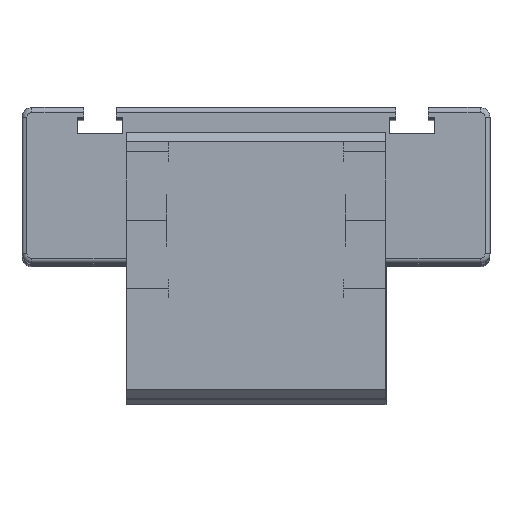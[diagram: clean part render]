
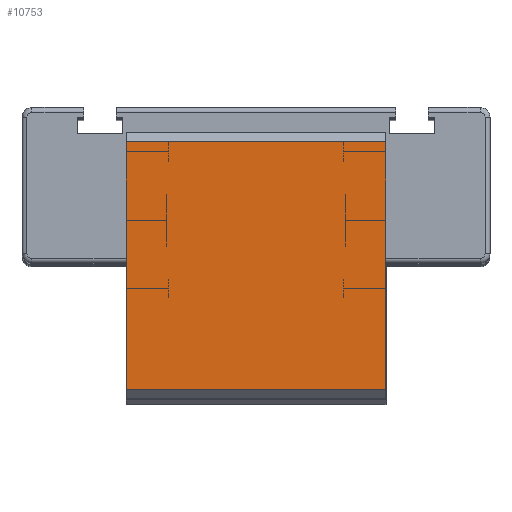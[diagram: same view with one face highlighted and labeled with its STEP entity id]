
A CAD part, top view. The second image highlights one B-rep face of the part: STEP entity #10753.
In plain terms, the highlighted planar face has unit normal (0, 0, 1).
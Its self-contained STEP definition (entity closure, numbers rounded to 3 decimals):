
#694 = CARTESIAN_POINT ( 'NONE',  ( 80., 0., 29.5 ) ) ;
#975 = ORIENTED_EDGE ( 'NONE', *, *, #7516, .F. ) ;
#2027 = ORIENTED_EDGE ( 'NONE', *, *, #6204, .T. ) ;
#2590 = EDGE_LOOP ( 'NONE', ( #8244, #975, #7506, #2027 ) ) ;
#2778 = VERTEX_POINT ( 'NONE', #6813 ) ;
#2981 = PLANE ( 'NONE',  #11340 ) ;
#3713 = DIRECTION ( 'NONE',  ( 0., 1., 0. ) ) ;
#3825 = FACE_OUTER_BOUND ( 'NONE', #2590, .T. ) ;
#3920 = VECTOR ( 'NONE', #9915, 1000. ) ;
#4360 = DIRECTION ( 'NONE',  ( 0., -1., 0. ) ) ;
#4519 = LINE ( 'NONE', #9073, #3920 ) ;
#4605 = CARTESIAN_POINT ( 'NONE',  ( 80., 0., 29.5 ) ) ;
#4972 = VERTEX_POINT ( 'NONE', #9683 ) ;
#5040 = EDGE_CURVE ( 'NONE', #11315, #9442, #11611, .T. ) ;
#5087 = VECTOR ( 'NONE', #6228, 1000. ) ;
#5384 = LINE ( 'NONE', #9056, #5087 ) ;
#5507 = CARTESIAN_POINT ( 'NONE',  ( 80., 79.05, 29.5 ) ) ;
#5701 = CARTESIAN_POINT ( 'NONE',  ( 80., 2.95, 29.5 ) ) ;
#6204 = EDGE_CURVE ( 'NONE', #11315, #4972, #4519, .T. ) ;
#6228 = DIRECTION ( 'NONE',  ( -1., 0., 0. ) ) ;
#6780 = VECTOR ( 'NONE', #4360, 1000. ) ;
#6813 = CARTESIAN_POINT ( 'NONE',  ( 0., 2.95, 29.5 ) ) ;
#7506 = ORIENTED_EDGE ( 'NONE', *, *, #5040, .F. ) ;
#7516 = EDGE_CURVE ( 'NONE', #9442, #2778, #5384, .T. ) ;
#8244 = ORIENTED_EDGE ( 'NONE', *, *, #8306, .T. ) ;
#8306 = EDGE_CURVE ( 'NONE', #4972, #2778, #11277, .T. ) ;
#9056 = CARTESIAN_POINT ( 'NONE',  ( 80., 2.95, 29.5 ) ) ;
#9073 = CARTESIAN_POINT ( 'NONE',  ( 80., 79.05, 29.5 ) ) ;
#9442 = VERTEX_POINT ( 'NONE', #5701 ) ;
#9487 = DIRECTION ( 'NONE',  ( 0., -1., 0. ) ) ;
#9683 = CARTESIAN_POINT ( 'NONE',  ( 0., 79.05, 29.5 ) ) ;
#9915 = DIRECTION ( 'NONE',  ( -1., 0., 0. ) ) ;
#10123 = DIRECTION ( 'NONE',  ( 0., 0., -1. ) ) ;
#10209 = CARTESIAN_POINT ( 'NONE',  ( 0., 0., 29.5 ) ) ;
#10753 = ADVANCED_FACE ( 'NONE', ( #3825 ), #2981, .F. ) ;
#11042 = VECTOR ( 'NONE', #9487, 1000. ) ;
#11277 = LINE ( 'NONE', #10209, #11042 ) ;
#11315 = VERTEX_POINT ( 'NONE', #5507 ) ;
#11340 = AXIS2_PLACEMENT_3D ( 'NONE', #4605, #10123, #3713 ) ;
#11611 = LINE ( 'NONE', #694, #6780 ) ;
